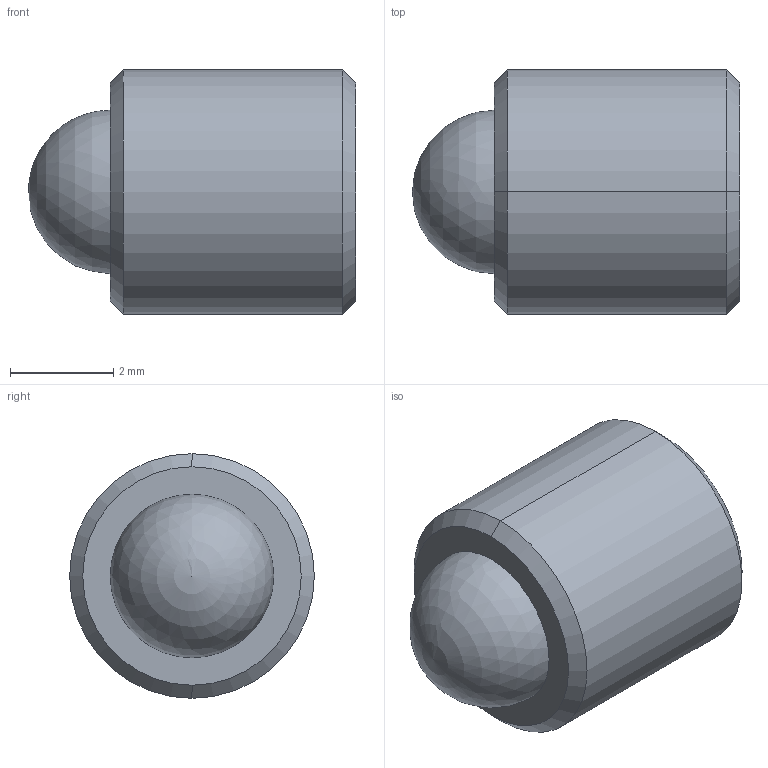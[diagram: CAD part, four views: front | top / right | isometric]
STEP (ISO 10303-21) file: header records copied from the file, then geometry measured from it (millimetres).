
FILE_DESCRIPTION (( 'STEP AP214' ), '1' );
FILE_NAME ('TS187-100-250.STEP', '2013-02-11T15:52:50', ( 'workpc' ), ( 'Microsoft' ), 'SwSTEP 2.0', 'SolidWorks 2013', '' );
FILE_SCHEMA (( 'AUTOMOTIVE_DESIGN' ));
Length unit declared in the file: inch
Products named in the file (1): TS187-100-250
Bounding box: 6.35 x 4.75 x 4.75 mm (x, y, z)
Volume: 79.9 mm3; surface area: 165.1 mm2
Topology: 2 solids, 2 shells, 20 faces, 45 edges, 29 vertices
Faces by surface type: plane 10, cylinder 4, cone 4, sphere 2
Entity records: 599 total; most frequent: DIRECTION 96, CARTESIAN_POINT 87, ORIENTED_EDGE 80, EDGE_CURVE 40, AXIS2_PLACEMENT_3D 35, VECTOR 26, VERTEX_POINT 26, LINE 26
